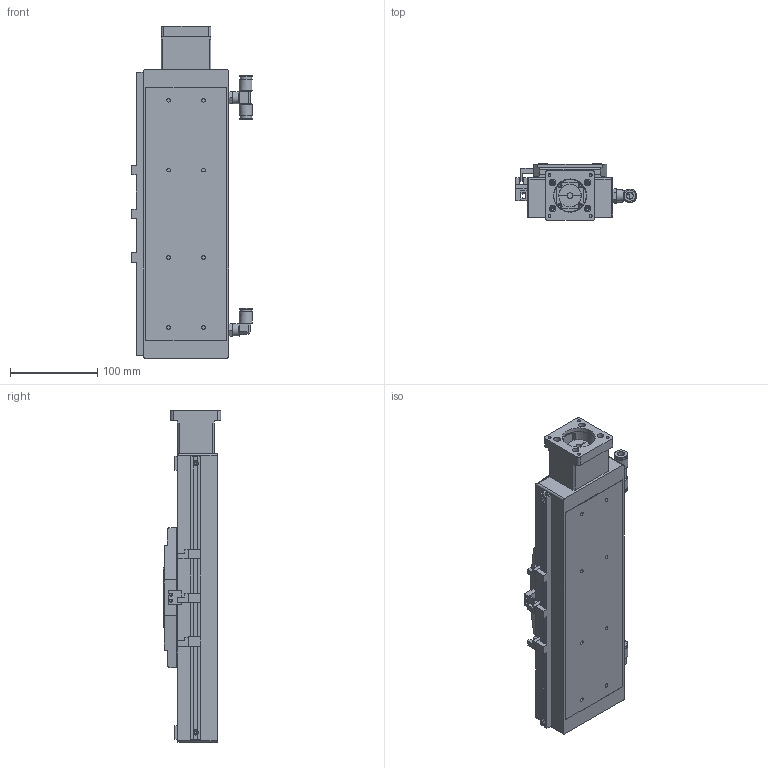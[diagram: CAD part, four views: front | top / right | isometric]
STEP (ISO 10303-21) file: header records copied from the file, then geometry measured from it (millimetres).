
FILE_DESCRIPTION((''),'2;1');
FILE_NAME('E:\libraries\UIA actuator library 2016\Clean room actuator\UIA098CR12DC\UIA098CR12 stp file 05May16\UIA098CR12DC-100-R16_ _-M23-P13-C10-S.stp','2016-05-05T14:57:33',('h029'),(''),'Autodesk Inventor 11','Autodesk Inventor 11','');
FILE_SCHEMA(('AUTOMOTIVE_DESIGN { 1 0 10303 214 1 1 1 1 }'));
Length unit declared in the file: millimetre
Products named in the file (12): UIA098CR12DC-100; body, UIA098CR12DC-100; carriage, UIA098CR12DC; Sensor Switch, UIA098CR12DC; SOH-25C; SOH-25C-2; SOH-25C-3; SOH-25C-1; Motor mount; Sensor Rail, UIA098CR12DC-100_MIR; vacuum port 1, UIA098CR12DC_MIR; vacuum port 2, UIA098CR12DC_MIR
Assembly tree (11 placements, depth 3):
  UIA098CR12DC-100
    body, UIA098CR12DC-100
    carriage, UIA098CR12DC
    Sensor Switch, UIA098CR12DC
    SOH-25C
      SOH-25C-2
      SOH-25C-3
      SOH-25C-1
    Motor mount
    Sensor Rail, UIA098CR12DC-100_MIR
    vacuum port 1, UIA098CR12DC_MIR
    vacuum port 2, UIA098CR12DC_MIR
Bounding box: 138.4 x 65.5 x 380 mm (x, y, z)
Volume: 1701057.3 mm3; surface area: 208592.9 mm2
Topology: 10 solids, 10 shells, 658 faces, 1719 edges, 1120 vertices
Faces by surface type: plane 295, bspline 276, cylinder 85, cone 2
Full cylindrical faces by diameter (mm): 3 x2, 5.6 x8, 8 x4, 9 x2, 10 x1, 13 x1, 15 x2, 18 x1, 25.5 x3, 37 x1, 38.1 x1
Entity records: 21393 total; most frequent: CARTESIAN_POINT 6252, ORIENTED_EDGE 3082, DIRECTION 2703, EDGE_CURVE 1541, VECTOR 1123, LINE 1123, VERTEX_POINT 1063, EDGE_LOOP 900
